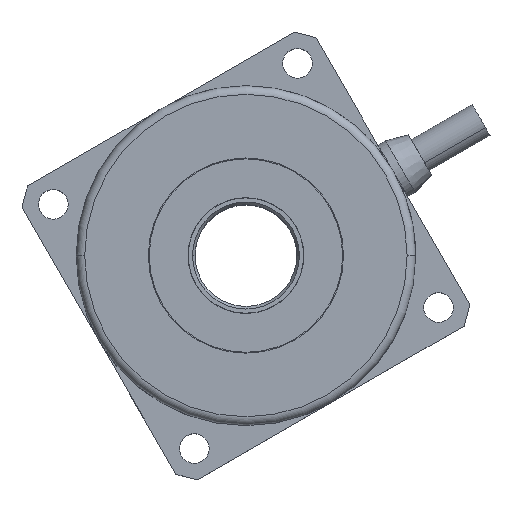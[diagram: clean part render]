
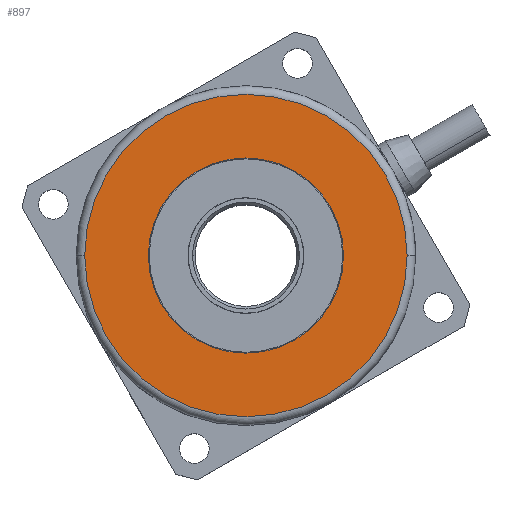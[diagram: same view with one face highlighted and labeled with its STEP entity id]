
A CAD part, top view. The second image highlights one B-rep face of the part: STEP entity #897.
In plain terms, the highlighted planar face has unit normal (0, 0, 1).
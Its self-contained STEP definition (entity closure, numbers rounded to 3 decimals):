
#897=ADVANCED_FACE('',(#1626,#1627),#1628,.T.);
#1626=FACE_OUTER_BOUND('',#2510,.T.);
#1627=FACE_BOUND('',#2511,.T.);
#1628=PLANE('',#2512);
#2510=EDGE_LOOP('',(#5078,#5079));
#2511=EDGE_LOOP('',(#5080,#5081));
#2512=AXIS2_PLACEMENT_3D('',#5082,#5083,#5084);
#5078=ORIENTED_EDGE('',*,*,#6397,.T.);
#5079=ORIENTED_EDGE('',*,*,#6486,.T.);
#5080=ORIENTED_EDGE('',*,*,#6421,.T.);
#5081=ORIENTED_EDGE('',*,*,#6487,.T.);
#5082=CARTESIAN_POINT('',(0.0,0.0,33.5));
#5083=DIRECTION('',(0.0,0.0,1.0));
#5084=DIRECTION('',(1.0,0.0,0.0));
#6397=EDGE_CURVE('',#7789,#7793,#7795,.T.);
#6421=EDGE_CURVE('',#7836,#7840,#7842,.T.);
#6486=EDGE_CURVE('',#7793,#7789,#7943,.T.);
#6487=EDGE_CURVE('',#7840,#7836,#7944,.T.);
#7789=VERTEX_POINT('',#10056);
#7793=VERTEX_POINT('',#10060);
#7795=CIRCLE('',#10062,19.0);
#7836=VERTEX_POINT('',#10165);
#7840=VERTEX_POINT('',#10170);
#7842=CIRCLE('',#10173,11.5);
#7943=CIRCLE('',#10518,19.0);
#7944=CIRCLE('',#10519,11.5);
#10056=CARTESIAN_POINT('',(19.0,0.0,33.5));
#10060=CARTESIAN_POINT('',(-19.0,0.,33.5));
#10062=AXIS2_PLACEMENT_3D('',#12202,#12203,#12204);
#10165=CARTESIAN_POINT('',(11.5,0.0,33.5));
#10170=CARTESIAN_POINT('',(-11.5,0.,33.5));
#10173=AXIS2_PLACEMENT_3D('',#12242,#12243,#12244);
#10518=AXIS2_PLACEMENT_3D('',#12336,#12337,#12338);
#10519=AXIS2_PLACEMENT_3D('',#12339,#12340,#12341);
#12202=CARTESIAN_POINT('',(0.0,0.0,33.5));
#12203=DIRECTION('',(0.0,0.0,1.0));
#12204=DIRECTION('',(1.0,0.0,0.0));
#12242=CARTESIAN_POINT('',(0.0,0.0,33.5));
#12243=DIRECTION('',(0.0,0.0,-1.0));
#12244=DIRECTION('',(1.0,0.0,0.0));
#12336=CARTESIAN_POINT('',(0.0,0.0,33.5));
#12337=DIRECTION('',(0.0,0.0,1.0));
#12338=DIRECTION('',(1.0,0.0,0.0));
#12339=CARTESIAN_POINT('',(0.0,0.0,33.5));
#12340=DIRECTION('',(0.0,0.0,-1.0));
#12341=DIRECTION('',(1.0,0.0,0.0));
